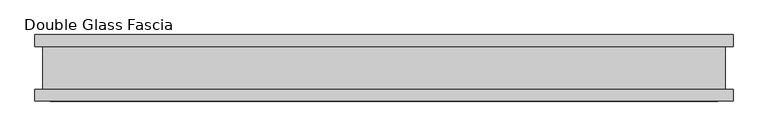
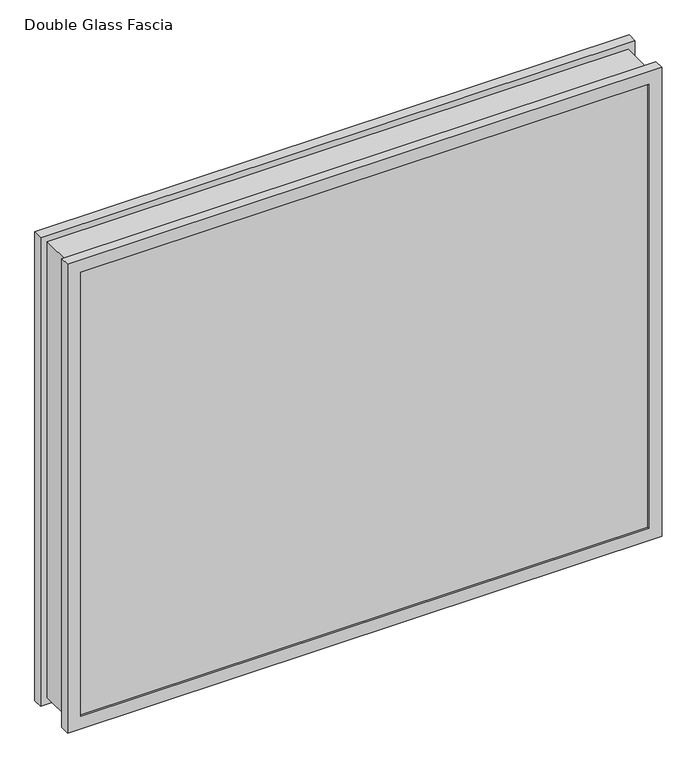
"""IFC4 building model written with IfcOpenShell, lengths in millimetres: proxy geometry, Glass_Fascia-Teknion-FHSG2-Double_Square_Corner-R2022 : Double Glass Fascia."""

from ifc_helpers import new_model, si_unit, frame, origin, place, context, project, spatial, polyline, outline, extrude, faceted_brep, source, transform, mapped, element, save


def double_glass_fascia_886a76fe(model_context):
    return source(origin(), model_context, "Body", "SolidModel", [
        faceted_brep([(513.3140848, 32.4352299, 866.775885), (513.3140848, -32.4352299, 866.775885), (513.3140848, -32.4352299, 15.0359151), (513.3140848, 32.4352299, 15.0359151), (-513.3140848, -32.4352299, 15.0359151), (-513.3140848, 32.4352299, 15.0359151), (-513.3140848, -32.4352299, 866.775885), (-513.3140848, 32.4352299, 866.775885), (502.1371999, -38.8962152, 855.5990001), (502.1371999, 38.8962152, 855.5990001), (502.1371999, 38.8962152, 26.2128), (502.1371999, -38.8962152, 26.2128), (518.8718392, -47.1322551, 872.3336393), (518.8718392, -38.8962152, 872.3336393), (518.8718392, -38.8962152, 9.4781608), (518.8718392, -47.1322551, 9.4781608), (501.9593999, -50.0558594, 855.4212001), (501.9593999, -47.1322551, 855.4212001), (501.9593999, -47.1322551, 26.3906), (501.9593999, -50.0558594, 26.3906), (525.1749999, -32.4352299, 878.6368001), (525.1749999, -50.0558594, 878.6368001), (525.1749999, -50.0558594, 3.175), (525.1749999, -32.4352299, 3.175), (-502.1371999, 38.8962152, 26.2128), (-502.1371999, -38.8962152, 26.2128), (-518.8718392, -38.8962152, 9.4781608), (-518.8718392, -47.1322551, 9.4781608), (-501.9593999, -47.1322551, 26.3906), (-501.9593999, -50.0558594, 26.3906), (-525.1749999, -50.0558594, 3.175), (-525.1749999, -32.4352299, 3.175), (-502.1371999, 38.8962152, 855.5990001), (-502.1371999, -38.8962152, 855.5990001), (-518.8718392, -38.8962152, 872.3336393), (-518.8718392, -47.1322551, 872.3336393), (-501.9593999, -47.1322551, 855.4212001), (-501.9593999, -50.0558594, 855.4212001), (-525.1749999, -50.0558594, 878.6368001), (-525.1749999, -32.4352299, 878.6368001), (525.1749999, 50.0558594, 878.6368001), (525.1749999, 32.4352299, 878.6368001), (525.1749999, 32.4352299, 3.175), (525.1749999, 50.0558594, 3.175), (502.1371999, 47.1322551, 855.5990001), (502.1371999, 50.0558594, 855.5990001), (502.1371999, 50.0558594, 26.2128), (502.1371999, 47.1322551, 26.2128), (518.8718392, 38.8962152, 872.3336393), (518.8718392, 47.1322551, 872.3336393), (518.8718392, 47.1322551, 9.4781608), (518.8718392, 38.8962152, 9.4781608), (-525.1749999, 32.4352299, 3.175), (-525.1749999, 50.0558594, 3.175), (-502.1371999, 50.0558594, 26.2128), (-502.1371999, 47.1322551, 26.2128), (-518.8718392, 47.1322551, 9.4781608), (-518.8718392, 38.8962152, 9.4781608), (-525.1749999, 32.4352299, 878.6368001), (-525.1749999, 50.0558594, 878.6368001), (-502.1371999, 50.0558594, 855.5990001), (-502.1371999, 47.1322551, 855.5990001), (-518.8718392, 47.1322551, 872.3336393), (-518.8718392, 38.8962152, 872.3336393)], [[[0, 1, 2, 3]], [[3, 2, 4, 5]], [[5, 4, 6, 7]], [[7, 6, 1, 0]], [[8, 9, 10, 11]], [[12, 13, 14, 15]], [[16, 17, 18, 19]], [[20, 21, 22, 23]], [[11, 10, 24, 25]], [[15, 14, 26, 27]], [[19, 18, 28, 29]], [[23, 22, 30, 31]], [[25, 24, 32, 33]], [[27, 26, 34, 35]], [[29, 28, 36, 37]], [[31, 30, 38, 39]], [[33, 32, 9, 8]], [[13, 34, 26, 14], [11, 25, 33, 8]], [[35, 34, 13, 12]], [[15, 27, 35, 12], [17, 36, 28, 18]], [[37, 36, 17, 16]], [[21, 38, 30, 22], [19, 29, 37, 16]], [[39, 38, 21, 20]], [[23, 31, 39, 20], [1, 6, 4, 2]], [[40, 41, 42, 43]], [[44, 45, 46, 47]], [[48, 49, 50, 51]], [[43, 42, 52, 53]], [[47, 46, 54, 55]], [[51, 50, 56, 57]], [[53, 52, 58, 59]], [[55, 54, 60, 61]], [[57, 56, 62, 63]], [[41, 58, 52, 42], [3, 5, 7, 0]], [[59, 58, 41, 40]], [[43, 53, 59, 40], [45, 60, 54, 46]], [[61, 60, 45, 44]], [[49, 62, 56, 50], [47, 55, 61, 44]], [[63, 62, 49, 48]], [[51, 57, 63, 48], [9, 32, 24, 10]]]),
        extrude(outline(polyline([(514.35, -40.9277344), (514.35, -46.8808594), (-514.35, -46.8808594), (-514.35, -40.9277344), (514.35, -40.9277344)])), frame((0.0, 0.0, 5.3275263), z_axis=(0.0, 0.0, 1.0), x_axis=(1.0, 0.0, 0.0)), (0.0, 0.0, 1.0), 870.6627281),
        extrude(outline(polyline([(514.35, 41.1791301), (-514.35, 41.1791301), (-514.35, 47.1322551), (514.35, 47.1322551), (514.35, 41.1791301)])), frame((0.0, 0.0, 5.3275263), z_axis=(0.0, 0.0, 1.0), x_axis=(1.0, 0.0, 0.0)), (0.0, 0.0, 1.0), 870.6627281),
    ])


if __name__ == "__main__":
    model = new_model("IFC4")
    model_context = context("Model", 3, world=origin())
    ifc_project = project(units=[si_unit("LENGTHUNIT", "METRE", prefix="MILLI")], contexts=[model_context])
    site = spatial("IfcSite", under=ifc_project)
    building = spatial("IfcBuilding", under=site)
    placement = place(None, origin())
    double_glass_fascia_shape = double_glass_fascia_886a76fe(model_context)
    element("IfcBuildingElementProxy", 1, Name="Glass_Fascia-Teknion-FHSG2-Double_Square_Corner-R2022 : Double Glass Fascia", ObjectType="Glass_Fascia-Teknion-FHSG2-Double_Square_Corner-R2022 : Double Glass Fascia", at=placement, inside=building, context=model_context, shape_type="MappedRepresentation", body=[
        mapped(double_glass_fascia_shape, transform((0.0, 0.0, 0.0), x_axis=(1.0, 0.0, 0.0), y_axis=(0.0, 1.0, 0.0), z_axis=(0.0, 0.0, 1.0))),
    ])
    save(model, "model.ifc")
